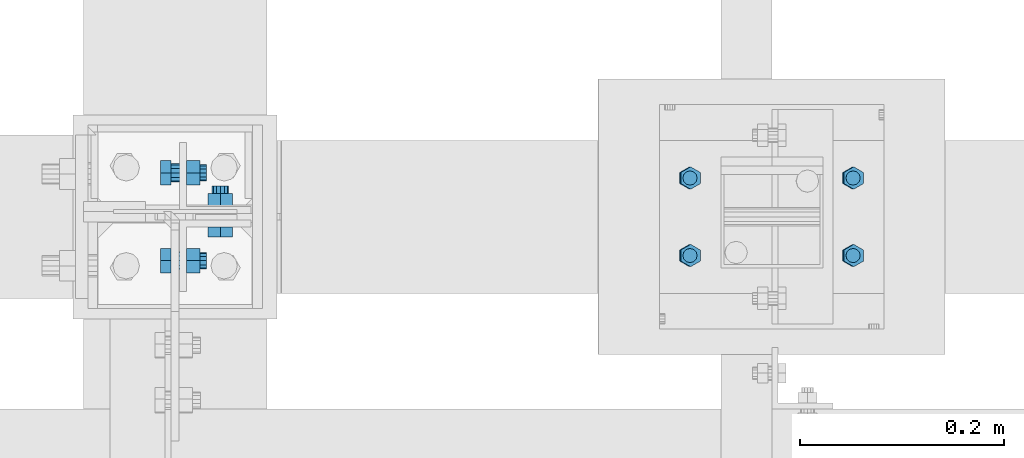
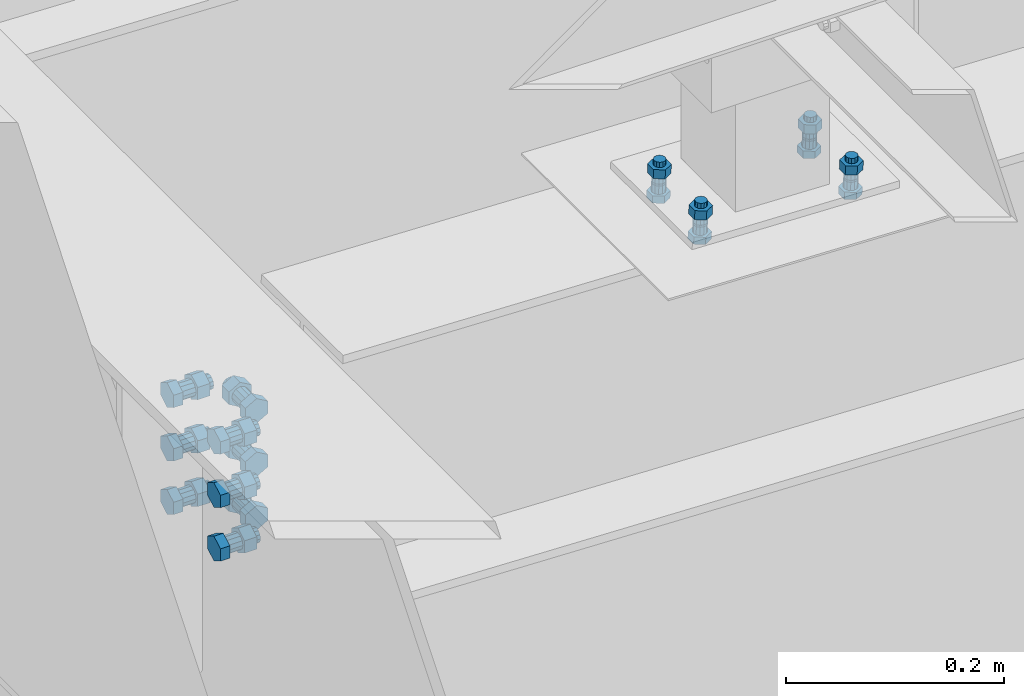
# One storey, part 210 of 3134: 5 mechanical fasteners, 4 elements without a shape of their own.
"""IFC2X3 building model written with IfcOpenShell, lengths in millimetres."""

from ifc_helpers import new_model, si_unit, frame, origin_with_axes, place, context, subcontext, project, spatial, faceted_brep, source, transform, mapped, material, type_object, element, aggregate, save


model = new_model("IFC2X3")

# Units and contexts
model_context = context("Model", 3, precision=1e-05, world=origin_with_axes())
body_context = subcontext(model_context, "Body", "Model", "MODEL_VIEW")
ifc_project = project(units=[si_unit("LENGTHUNIT", "METRE", prefix="MILLI"), si_unit("AREAUNIT", "SQUARE_METRE"), si_unit("VOLUMEUNIT", "CUBIC_METRE"), si_unit("MASSUNIT", "GRAM", prefix="KILO"), si_unit("TIMEUNIT", "SECOND"), si_unit("PLANEANGLEUNIT", "RADIAN"), si_unit("SOLIDANGLEUNIT", "STERADIAN"), si_unit("THERMODYNAMICTEMPERATUREUNIT", "DEGREE_CELSIUS"), si_unit("LUMINOUSINTENSITYUNIT", "LUMEN")], contexts=[model_context])

# Site, building, storey
site_placement = place(None, origin_with_axes())
site = spatial("IfcSite", under=ifc_project, at=site_placement, CompositionType="ELEMENT")
building_placement = place(site_placement, origin_with_axes())
building = spatial("IfcBuilding", under=site, at=building_placement, Name="Undefined", CompositionType="ELEMENT")
storey_placement = place(building_placement, origin_with_axes())
storey = spatial("IfcBuildingStorey", under=building, at=storey_placement, Name="Undefined", CompositionType="ELEMENT", Elevation=0.0)

# Assembly, mechanical fastener
assembly_1_placement = place(storey_placement, origin_with_axes())
assembly_1 = element("IfcElementAssembly", 1, at=assembly_1_placement, inside=storey, AssemblyPlace="NOTDEFINED", PredefinedType="RIGID_FRAME")
ifc_material = material(Name="8.8")
mechanical_fastener_type = type_object("IfcMechanicalFastenerType", Name="Bolt assembly")
shared_shape_1 = source(origin_with_axes(), body_context, "Body", "Brep", [
    faceted_brep([(13.856406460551, -18.5936482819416, 0.0), (6.92820323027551, -18.5936482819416, 12.0), (-6.92820323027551, -18.5936482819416, 12.0), (-13.856406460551, -18.5936482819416, 1.69692038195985e-15), (-6.92820323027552, -18.5936482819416, -12.0), (6.9282032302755, -18.5936482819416, -12.0), (6.9282032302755, -8.59364828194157, -12.0), (-6.92820323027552, -8.59364828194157, -12.0), (-13.856406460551, -8.59364828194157, 1.69692038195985e-15), (-6.92820323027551, -8.59364828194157, 12.0), (6.92820323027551, -8.59364828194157, 12.0), (13.856406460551, -8.59364828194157, 0.0), (8.0, -8.59364828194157, 0.0), (6.92820323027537, -8.59364828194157, 4.00000000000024), (3.99999999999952, -8.59364828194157, 6.92820323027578), (-8.29068785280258e-13, -8.59364828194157, 8.0), (-4.00000000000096, -8.59364828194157, 6.92820323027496), (-6.9282032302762, -8.59364828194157, 3.99999999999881), (-8.0, -8.59364828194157, -1.65813757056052e-12), (-6.92820323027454, -8.59364828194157, -4.00000000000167), (-3.99999999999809, -8.59364828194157, -6.92820323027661), (2.47832457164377e-12, -8.59364828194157, -8.0), (4.00000000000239, -8.59364828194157, -6.92820323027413), (6.92820323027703, -8.59364828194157, -3.99999999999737), (6.92820323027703, 26.4063517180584, -3.99999999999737), (4.00000000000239, 26.4063517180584, -6.92820323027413), (2.47832457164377e-12, 26.4063517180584, -8.0), (-3.99999999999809, 26.4063517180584, -6.92820323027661), (-6.92820323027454, 26.4063517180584, -4.00000000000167), (-8.0, 26.4063517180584, -1.65813757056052e-12), (-6.9282032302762, 26.4063517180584, 3.99999999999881), (-4.00000000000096, 26.4063517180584, 6.92820323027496), (-8.29068785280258e-13, 26.4063517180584, 8.0), (3.99999999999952, 26.4063517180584, 6.92820323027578), (6.92820323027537, 26.4063517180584, 4.00000000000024), (8.0, 26.4063517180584, 0.0), (13.856406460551, 7.0, 0.0), (6.92820323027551, 7.0, 12.0), (-6.92820323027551, 7.0, 12.0), (-13.856406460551, 7.0, 1.69692038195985e-15), (-6.92820323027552, 7.0, -12.0), (6.9282032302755, 7.0, -12.0), (6.9282032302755, 20.0, -12.0), (-6.92820323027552, 20.0, -12.0), (-13.856406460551, 20.0, 1.69692038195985e-15), (-6.92820323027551, 20.0, 12.0), (6.92820323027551, 20.0, 12.0), (13.856406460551, 20.0, 0.0)], [[[0, 1, 2, 3, 4, 5]], [[6, 7, 8, 9, 10, 11]], [[0, 11, 10, 1]], [[1, 10, 9, 2]], [[2, 9, 8, 3]], [[3, 8, 7, 4]], [[4, 7, 6, 5]], [[5, 6, 11, 0]], [[12, 13, 14, 15, 16, 17, 18, 19, 20, 21, 22, 23]], [[24, 25, 26, 27, 28, 29, 30, 31, 32, 33, 34, 35]], [[12, 35, 34, 13]], [[13, 34, 33, 14]], [[14, 33, 32, 15]], [[15, 32, 31, 16]], [[16, 31, 30, 17]], [[17, 30, 29, 18]], [[18, 29, 28, 19]], [[19, 28, 27, 20]], [[20, 27, 26, 21]], [[21, 26, 25, 22]], [[22, 25, 24, 23]], [[23, 24, 35, 12]], [[36, 37, 38, 39, 40, 41]], [[42, 43, 44, 45, 46, 47]], [[36, 47, 46, 37]], [[37, 46, 45, 38]], [[38, 45, 44, 39]], [[39, 44, 43, 40]], [[40, 43, 42, 41]], [[41, 42, 47, 36]]]),
    faceted_brep([(9.0, -8.49364828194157, 0.0), (7.79422863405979, -8.49364828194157, 4.50000000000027), (4.49999999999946, -8.49364828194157, 7.79422863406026), (-9.3270238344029e-13, -8.49364828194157, 9.0), (-4.50000000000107, -8.49364828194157, 7.79422863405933), (-7.79422863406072, -8.49364828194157, 4.49999999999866), (-9.0, -8.49364828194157, -1.86540476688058e-12), (-7.79422863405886, -8.49364828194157, -4.50000000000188), (-4.49999999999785, -8.49364828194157, -7.79422863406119), (2.78811514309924e-12, -8.49364828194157, -9.0), (4.50000000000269, -8.49364828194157, -7.7942286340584), (7.79422863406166, -8.49364828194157, -4.49999999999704), (7.79422863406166, 0.10635209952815, -4.49999999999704), (4.50000000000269, 0.10635209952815, -7.7942286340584), (2.78811514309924e-12, 0.10635209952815, -9.0), (-4.49999999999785, 0.10635209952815, -7.79422863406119), (-7.79422863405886, 0.10635209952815, -4.50000000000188), (-9.0, 0.10635209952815, -1.86540476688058e-12), (-7.79422863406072, 0.10635209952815, 4.49999999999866), (-4.50000000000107, 0.10635209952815, 7.79422863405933), (-9.3270238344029e-13, 0.10635209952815, 9.0), (4.49999999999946, 0.10635209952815, 7.79422863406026), (7.79422863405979, 0.10635209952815, 4.50000000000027), (9.0, 0.10635209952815, 0.0), (9.0, -0.1, 0.0), (7.79422863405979, -0.1, 4.50000000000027), (4.49999999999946, -0.1, 7.79422863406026), (-9.3270238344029e-13, -0.1, 9.0), (-4.50000000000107, -0.1, 7.79422863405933), (-7.79422863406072, -0.1, 4.49999999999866), (-9.0, -0.1, -1.86540476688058e-12), (-7.79422863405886, -0.1, -4.50000000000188), (-4.49999999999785, -0.1, -7.79422863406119), (2.78811514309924e-12, -0.1, -9.0), (4.50000000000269, -0.1, -7.7942286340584), (7.79422863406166, -0.1, -4.49999999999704), (7.79422863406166, 7.0, -4.49999999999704), (4.50000000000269, 7.0, -7.7942286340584), (2.78811514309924e-12, 7.0, -9.0), (-4.49999999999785, 7.0, -7.79422863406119), (-7.79422863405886, 7.0, -4.50000000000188), (-9.0, 7.0, -1.86540476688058e-12), (-7.79422863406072, 7.0, 4.49999999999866), (-4.50000000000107, 7.0, 7.79422863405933), (-9.3270238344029e-13, 7.0, 9.0), (4.49999999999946, 7.0, 7.79422863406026), (7.79422863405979, 7.0, 4.50000000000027), (9.0, 7.0, 0.0)], [[[0, 1, 2, 3, 4, 5, 6, 7, 8, 9, 10, 11]], [[12, 13, 14, 15, 16, 17, 18, 19, 20, 21, 22, 23]], [[0, 23, 22, 1]], [[1, 22, 21, 2]], [[2, 21, 20, 3]], [[3, 20, 19, 4]], [[4, 19, 18, 5]], [[5, 18, 17, 6]], [[6, 17, 16, 7]], [[7, 16, 15, 8]], [[8, 15, 14, 9]], [[9, 14, 13, 10]], [[10, 13, 12, 11]], [[11, 12, 23, 0]], [[24, 25, 26, 27, 28, 29, 30, 31, 32, 33, 34, 35]], [[36, 37, 38, 39, 40, 41, 42, 43, 44, 45, 46, 47]], [[24, 47, 46, 25]], [[25, 46, 45, 26]], [[26, 45, 44, 27]], [[27, 44, 43, 28]], [[28, 43, 42, 29]], [[29, 42, 41, 30]], [[30, 41, 40, 31]], [[31, 40, 39, 32]], [[32, 39, 38, 33]], [[33, 38, 37, 34]], [[34, 37, 36, 35]], [[35, 36, 47, 24]]]),
])
mechanical_fastener_1_placement = place(assembly_1_placement, frame((4.29364809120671, 48568.04, 3841.86727512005), z_axis=(0.0, 1.0, 0.0), x_axis=(0.0, 0.0, 1.0)))
mechanical_fastener_1 = element("IfcMechanicalFastener", 2, at=mechanical_fastener_1_placement, type_object=mechanical_fastener_type, material=ifc_material, Name="Bolt assembly", NominalDiameter=16.0, NominalLength=35.0, context=body_context, shape_type="MappedRepresentation", body=[
    mapped(shared_shape_1, transform((0.0, 0.0, 0.0))),
    mapped(shared_shape_1, transform((59.9999999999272, 0.0, 5.40239852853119e-10))),
    mapped(shared_shape_1, transform((120.0, 0.0, 0.0))),
])
aggregate(assembly_1, [mechanical_fastener_1])

# Assembly, mechanical fasteners
assembly_2_placement = place(storey_placement, origin_with_axes())
assembly_2 = element("IfcElementAssembly", 3, at=assembly_2_placement, inside=storey, AssemblyPlace="NOTDEFINED", PredefinedType="RIGID_FRAME")
mechanical_fastener_2_placement = place(assembly_2_placement, frame((4.29364809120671, 48481.96, 3841.86727512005), z_axis=(0.0, 1.0, 0.0), x_axis=(0.0, 0.0, 1.0)))
mechanical_fastener_2 = element("IfcMechanicalFastener", 4, at=mechanical_fastener_2_placement, type_object=mechanical_fastener_type, material=ifc_material, Name="Bolt assembly", NominalDiameter=16.0, NominalLength=35.0, context=body_context, shape_type="MappedRepresentation", body=[
    mapped(shared_shape_1, transform((0.0, 0.0, 0.0))),
    mapped(shared_shape_1, transform((59.9999999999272, 0.0, 5.40239852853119e-10))),
    mapped(shared_shape_1, transform((120.0, 0.0, 0.0))),
])
shared_shape_2 = source(origin_with_axes(), body_context, "Body", "Brep", [
    faceted_brep([(13.856406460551, -20.0400000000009, 0.0), (6.92820323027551, -20.0400000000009, 12.0), (-6.92820323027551, -20.0400000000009, 12.0), (-13.856406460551, -20.0400000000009, 1.69692038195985e-15), (-6.92820323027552, -20.0400000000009, -12.0), (6.9282032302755, -20.0400000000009, -12.0), (6.9282032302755, -10.0400000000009, -12.0), (-6.92820323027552, -10.0400000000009, -12.0), (-13.856406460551, -10.0400000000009, 1.69692038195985e-15), (-6.92820323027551, -10.0400000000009, 12.0), (6.92820323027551, -10.0400000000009, 12.0), (13.856406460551, -10.0400000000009, 0.0), (8.0, -10.0400000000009, 0.0), (6.92820323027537, -10.0400000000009, 4.00000000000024), (3.99999999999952, -10.0400000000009, 6.92820323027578), (-8.29068785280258e-13, -10.0400000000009, 8.0), (-4.00000000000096, -10.0400000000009, 6.92820323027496), (-6.9282032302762, -10.0400000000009, 3.99999999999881), (-8.0, -10.0400000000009, -1.65813757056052e-12), (-6.92820323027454, -10.0400000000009, -4.00000000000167), (-3.99999999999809, -10.0400000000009, -6.92820323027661), (2.47832457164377e-12, -10.0400000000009, -8.0), (4.00000000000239, -10.0400000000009, -6.92820323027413), (6.92820323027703, -10.0400000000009, -3.99999999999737), (6.92820323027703, 29.9599999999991, -3.99999999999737), (4.00000000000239, 29.9599999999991, -6.92820323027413), (2.47832457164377e-12, 29.9599999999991, -8.0), (-3.99999999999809, 29.9599999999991, -6.92820323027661), (-6.92820323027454, 29.9599999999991, -4.00000000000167), (-8.0, 29.9599999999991, -1.65813757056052e-12), (-6.9282032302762, 29.9599999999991, 3.99999999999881), (-4.00000000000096, 29.9599999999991, 6.92820323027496), (-8.29068785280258e-13, 29.9599999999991, 8.0), (3.99999999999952, 29.9599999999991, 6.92820323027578), (6.92820323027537, 29.9599999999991, 4.00000000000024), (8.0, 29.9599999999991, 0.0), (13.856406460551, 10.0400000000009, 0.0), (6.92820323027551, 10.0400000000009, 12.0), (-6.92820323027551, 10.0400000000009, 12.0), (-13.856406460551, 10.0400000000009, 1.69692038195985e-15), (-6.92820323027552, 10.0400000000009, -12.0), (6.9282032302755, 10.0400000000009, -12.0), (6.9282032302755, 23.0400000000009, -12.0), (-6.92820323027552, 23.0400000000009, -12.0), (-13.856406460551, 23.0400000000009, 1.69692038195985e-15), (-6.92820323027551, 23.0400000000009, 12.0), (6.92820323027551, 23.0400000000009, 12.0), (13.856406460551, 23.0400000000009, 0.0)], [[[0, 1, 2, 3, 4, 5]], [[6, 7, 8, 9, 10, 11]], [[0, 11, 10, 1]], [[1, 10, 9, 2]], [[2, 9, 8, 3]], [[3, 8, 7, 4]], [[4, 7, 6, 5]], [[5, 6, 11, 0]], [[12, 13, 14, 15, 16, 17, 18, 19, 20, 21, 22, 23]], [[24, 25, 26, 27, 28, 29, 30, 31, 32, 33, 34, 35]], [[12, 35, 34, 13]], [[13, 34, 33, 14]], [[14, 33, 32, 15]], [[15, 32, 31, 16]], [[16, 31, 30, 17]], [[17, 30, 29, 18]], [[18, 29, 28, 19]], [[19, 28, 27, 20]], [[20, 27, 26, 21]], [[21, 26, 25, 22]], [[22, 25, 24, 23]], [[23, 24, 35, 12]], [[36, 37, 38, 39, 40, 41]], [[42, 43, 44, 45, 46, 47]], [[36, 47, 46, 37]], [[37, 46, 45, 38]], [[38, 45, 44, 39]], [[39, 44, 43, 40]], [[40, 43, 42, 41]], [[41, 42, 47, 36]]]),
    faceted_brep([(9.0, -3.04999995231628, 0.0), (7.79422863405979, -3.04999995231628, 4.50000000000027), (4.49999999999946, -3.04999995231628, 7.79422863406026), (-9.3270238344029e-13, -3.04999995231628, 9.0), (-4.50000000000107, -3.04999995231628, 7.79422863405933), (-7.79422863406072, -3.04999995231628, 4.49999999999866), (-9.0, -3.04999995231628, -1.86540476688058e-12), (-7.79422863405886, -3.04999995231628, -4.50000000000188), (-4.49999999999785, -3.04999995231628, -7.79422863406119), (2.78811514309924e-12, -3.04999995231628, -9.0), (4.50000000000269, -3.04999995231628, -7.7942286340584), (7.79422863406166, -3.04999995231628, -4.49999999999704), (7.79422863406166, 3.04999995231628, -4.49999999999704), (4.50000000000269, 3.04999995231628, -7.7942286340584), (2.78811514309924e-12, 3.04999995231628, -9.0), (-4.49999999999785, 3.04999995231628, -7.79422863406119), (-7.79422863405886, 3.04999995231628, -4.50000000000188), (-9.0, 3.04999995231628, -1.86540476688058e-12), (-7.79422863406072, 3.04999995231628, 4.49999999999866), (-4.50000000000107, 3.04999995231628, 7.79422863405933), (-9.3270238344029e-13, 3.04999995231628, 9.0), (4.49999999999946, 3.04999995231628, 7.79422863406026), (7.79422863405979, 3.04999995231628, 4.50000000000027), (9.0, 3.04999995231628, 0.0), (9.0, -9.94000000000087, 0.0), (7.79422863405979, -9.94000000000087, 4.50000000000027), (4.49999999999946, -9.94000000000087, 7.79422863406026), (-9.3270238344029e-13, -9.94000000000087, 9.0), (-4.50000000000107, -9.94000000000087, 7.79422863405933), (-7.79422863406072, -9.94000000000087, 4.49999999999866), (-9.0, -9.94000000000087, -1.86540476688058e-12), (-7.79422863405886, -9.94000000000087, -4.50000000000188), (-4.49999999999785, -9.94000000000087, -7.79422863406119), (2.78811514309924e-12, -9.94000000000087, -9.0), (4.50000000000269, -9.94000000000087, -7.7942286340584), (7.79422863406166, -9.94000000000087, -4.49999999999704), (7.79422863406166, -2.94000000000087, -4.49999999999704), (4.50000000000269, -2.94000000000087, -7.7942286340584), (2.78811514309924e-12, -2.94000000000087, -9.0), (-4.49999999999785, -2.94000000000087, -7.79422863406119), (-7.79422863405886, -2.94000000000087, -4.50000000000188), (-9.0, -2.94000000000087, -1.86540476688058e-12), (-7.79422863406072, -2.94000000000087, 4.49999999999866), (-4.50000000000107, -2.94000000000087, 7.79422863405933), (-9.3270238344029e-13, -2.94000000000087, 9.0), (4.49999999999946, -2.94000000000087, 7.79422863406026), (7.79422863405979, -2.94000000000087, 4.50000000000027), (9.0, -2.94000000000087, 0.0), (9.0, 2.94000000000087, 0.0), (7.79422863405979, 2.94000000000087, 4.50000000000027), (4.49999999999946, 2.94000000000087, 7.79422863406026), (-9.3270238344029e-13, 2.94000000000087, 9.0), (-4.50000000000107, 2.94000000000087, 7.79422863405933), (-7.79422863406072, 2.94000000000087, 4.49999999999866), (-9.0, 2.94000000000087, -1.86540476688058e-12), (-7.79422863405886, 2.94000000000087, -4.50000000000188), (-4.49999999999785, 2.94000000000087, -7.79422863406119), (2.78811514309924e-12, 2.94000000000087, -9.0), (4.50000000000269, 2.94000000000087, -7.7942286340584), (7.79422863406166, 2.94000000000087, -4.49999999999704), (7.79422863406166, 10.0400000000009, -4.49999999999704), (4.50000000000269, 10.0400000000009, -7.7942286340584), (2.78811514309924e-12, 10.0400000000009, -9.0), (-4.49999999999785, 10.0400000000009, -7.79422863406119), (-7.79422863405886, 10.0400000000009, -4.50000000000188), (-9.0, 10.0400000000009, -1.86540476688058e-12), (-7.79422863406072, 10.0400000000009, 4.49999999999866), (-4.50000000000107, 10.0400000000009, 7.79422863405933), (-9.3270238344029e-13, 10.0400000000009, 9.0), (4.49999999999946, 10.0400000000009, 7.79422863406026), (7.79422863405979, 10.0400000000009, 4.50000000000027), (9.0, 10.0400000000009, 0.0)], [[[0, 1, 2, 3, 4, 5, 6, 7, 8, 9, 10, 11]], [[12, 13, 14, 15, 16, 17, 18, 19, 20, 21, 22, 23]], [[0, 23, 22, 1]], [[1, 22, 21, 2]], [[2, 21, 20, 3]], [[3, 20, 19, 4]], [[4, 19, 18, 5]], [[5, 18, 17, 6]], [[6, 17, 16, 7]], [[7, 16, 15, 8]], [[8, 15, 14, 9]], [[9, 14, 13, 10]], [[10, 13, 12, 11]], [[11, 12, 23, 0]], [[24, 25, 26, 27, 28, 29, 30, 31, 32, 33, 34, 35]], [[36, 37, 38, 39, 40, 41, 42, 43, 44, 45, 46, 47]], [[24, 47, 46, 25]], [[25, 46, 45, 26]], [[26, 45, 44, 27]], [[27, 44, 43, 28]], [[28, 43, 42, 29]], [[29, 42, 41, 30]], [[30, 41, 40, 31]], [[31, 40, 39, 32]], [[32, 39, 38, 33]], [[33, 38, 37, 34]], [[34, 37, 36, 35]], [[35, 36, 47, 24]], [[48, 49, 50, 51, 52, 53, 54, 55, 56, 57, 58, 59]], [[60, 61, 62, 63, 64, 65, 66, 67, 68, 69, 70, 71]], [[48, 71, 70, 49]], [[49, 70, 69, 50]], [[50, 69, 68, 51]], [[51, 68, 67, 52]], [[52, 67, 66, 53]], [[53, 66, 65, 54]], [[54, 65, 64, 55]], [[55, 64, 63, 56]], [[56, 63, 62, 57]], [[57, 62, 61, 58]], [[58, 61, 60, 59]], [[59, 60, 71, 48]]]),
])
mechanical_fastener_3_placement = place(assembly_2_placement, frame((44.2936480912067, 48525.0, 3841.86727512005), z_axis=(-1.0, 0.0, 0.0), x_axis=(0.0, 0.0, 1.0)))
mechanical_fastener_3 = element("IfcMechanicalFastener", 5, at=mechanical_fastener_3_placement, type_object=mechanical_fastener_type, material=ifc_material, Name="Bolt assembly", NominalDiameter=16.0, NominalLength=40.0, context=body_context, shape_type="MappedRepresentation", body=[
    mapped(shared_shape_2, transform((0.0, 0.0, 0.0))),
    mapped(shared_shape_2, transform((59.9999999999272, 0.0, 5.40239852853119e-10))),
    mapped(shared_shape_2, transform((120.0, 0.0, 0.0))),
])
aggregate(assembly_2, [mechanical_fastener_2, mechanical_fastener_3])

# Assembly, mechanical fastener
assembly_3_placement = place(storey_placement, origin_with_axes())
assembly_3 = element("IfcElementAssembly", 6, at=assembly_3_placement, inside=storey, AssemblyPlace="NOTDEFINED", PredefinedType="RIGID_FRAME")
shared_shape_3 = source(origin_with_axes(), body_context, "Body", "Brep", [
    faceted_brep([(7.0, 13.0000253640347, 0.0), (6.06217782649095, 13.0000253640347, 3.50000000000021), (3.49999999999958, 13.0000253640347, 6.06217782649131), (-7.25435187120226e-13, 13.0000253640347, 7.0), (-3.50000000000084, 13.0000253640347, 6.06217782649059), (-6.06217782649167, 13.0000253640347, 3.49999999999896), (-7.0, 13.0000253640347, -1.45087037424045e-12), (-6.06217782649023, 13.0000253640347, -3.50000000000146), (-3.49999999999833, 13.0000253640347, -6.06217782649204), (2.1685340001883e-12, 13.0000253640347, -7.0), (3.50000000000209, 13.0000253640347, -6.06217782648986), (6.0621778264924, 13.0000253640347, -3.4999999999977), (6.0621778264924, 15.0999999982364, -3.4999999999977), (3.50000000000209, 15.0999999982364, -6.06217782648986), (2.1685340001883e-12, 15.0999999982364, -7.0), (-3.49999999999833, 15.0999999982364, -6.06217782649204), (-6.06217782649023, 15.0999999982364, -3.50000000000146), (-7.0, 15.0999999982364, -1.45087037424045e-12), (-6.06217782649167, 15.0999999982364, 3.49999999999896), (-3.50000000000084, 15.0999999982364, 6.06217782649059), (-7.25435187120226e-13, 15.0999999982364, 7.0), (3.49999999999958, 15.0999999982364, 6.06217782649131), (6.06217782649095, 15.0999999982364, 3.50000000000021), (7.0, 15.0999999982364, 0.0)], [[[0, 1, 2, 3, 4, 5, 6, 7, 8, 9, 10, 11]], [[12, 13, 14, 15, 16, 17, 18, 19, 20, 21, 22, 23]], [[0, 23, 22, 1]], [[1, 22, 21, 2]], [[2, 21, 20, 3]], [[3, 20, 19, 4]], [[4, 19, 18, 5]], [[5, 18, 17, 6]], [[6, 17, 16, 7]], [[7, 16, 15, 8]], [[8, 15, 14, 9]], [[9, 14, 13, 10]], [[10, 13, 12, 11]], [[11, 12, 23, 0]]]),
])
mechanical_fastener_4_placement = place(assembly_3_placement, frame((584.193186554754, 48562.9999999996, 4006.54000668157), z_axis=(-0.999387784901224, 0.0, 0.0349865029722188), x_axis=(0.0, -1.0, 0.0)))
mechanical_fastener_4 = element("IfcMechanicalFastener", 7, at=mechanical_fastener_4_placement, type_object=mechanical_fastener_type, material=ifc_material, Name="Bolt assembly", NominalDiameter=12.0, NominalLength=2.0, context=body_context, shape_type="MappedRepresentation", body=[
    mapped(shared_shape_3, transform((0.0, -5.32963895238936e-10, -79.9999999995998))),
    mapped(shared_shape_3, transform((76.0, -5.32963895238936e-10, -79.9999999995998))),
    mapped(shared_shape_3, transform((0.0, 5.3114490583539e-10, 79.9999999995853))),
    mapped(shared_shape_3, transform((76.0, 5.3114490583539e-10, 79.9999999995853))),
])
aggregate(assembly_3, [mechanical_fastener_4])

assembly_4_placement = place(storey_placement, origin_with_axes())
assembly_4 = element("IfcElementAssembly", 8, at=assembly_4_placement, inside=storey, AssemblyPlace="NOTDEFINED", PredefinedType="RIGID_FRAME")
shared_shape_4 = source(origin_with_axes(), body_context, "Body", "Brep", [
    faceted_brep([(10.9696551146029, -4.19442685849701, 0.0), (5.48482755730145, -4.19442685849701, 9.5), (-5.48482755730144, -4.19442685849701, 9.5), (-10.9696551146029, -4.19442685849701, 1.34339530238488e-15), (-5.48482755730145, -4.19442685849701, -9.5), (5.48482755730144, -4.19442685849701, -9.50000000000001), (5.48482755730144, 3.80557314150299, -9.50000000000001), (-5.48482755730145, 3.80557314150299, -9.5), (-10.9696551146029, 3.80557314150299, 1.34339530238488e-15), (-5.48482755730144, 3.80557314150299, 9.5), (5.48482755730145, 3.80557314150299, 9.5), (10.9696551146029, 3.80557314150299, 0.0), (6.0, 3.80557314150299, 0.0), (5.19615242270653, 3.80557314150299, 3.00000000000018), (2.99999999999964, 3.80557314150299, 5.19615242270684), (-6.21801588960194e-13, 3.80557314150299, 6.0), (-3.00000000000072, 3.80557314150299, 5.19615242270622), (-5.19615242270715, 3.80557314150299, 2.9999999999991), (-6.0, 3.80557314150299, -1.24360317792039e-12), (-5.19615242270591, 3.80557314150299, -3.00000000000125), (-2.99999999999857, 3.80557314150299, -5.19615242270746), (1.85874342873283e-12, 3.80557314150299, -6.0), (3.00000000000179, 3.80557314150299, -5.1961524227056), (5.19615242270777, 3.80557314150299, -2.99999999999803), (5.19615242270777, 38.805573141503, -2.99999999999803), (3.00000000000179, 38.805573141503, -5.1961524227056), (1.85874342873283e-12, 38.805573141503, -6.0), (-2.99999999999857, 38.805573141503, -5.19615242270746), (-5.19615242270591, 38.805573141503, -3.00000000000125), (-6.0, 38.805573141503, -1.24360317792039e-12), (-5.19615242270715, 38.805573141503, 2.9999999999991), (-3.00000000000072, 38.805573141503, 5.19615242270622), (-6.21801588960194e-13, 38.805573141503, 6.0), (2.99999999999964, 38.805573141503, 5.19615242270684), (5.19615242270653, 38.805573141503, 3.00000000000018), (6.0, 38.805573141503, 0.0), (10.9696551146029, 23.0139082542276, 0.0), (5.48482755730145, 23.0139082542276, 9.5), (-5.48482755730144, 23.0139082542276, 9.5), (-10.9696551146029, 23.0139082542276, 1.34339530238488e-15), (-5.48482755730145, 23.0139082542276, -9.5), (5.48482755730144, 23.0139082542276, -9.50000000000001), (5.48482755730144, 33.0139082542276, -9.50000000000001), (-5.48482755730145, 33.0139082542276, -9.5), (-10.9696551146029, 33.0139082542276, 1.34339530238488e-15), (-5.48482755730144, 33.0139082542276, 9.5), (5.48482755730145, 33.0139082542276, 9.5), (10.9696551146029, 33.0139082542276, 0.0)], [[[0, 1, 2, 3, 4, 5]], [[6, 7, 8, 9, 10, 11]], [[0, 11, 10, 1]], [[1, 10, 9, 2]], [[2, 9, 8, 3]], [[3, 8, 7, 4]], [[4, 7, 6, 5]], [[5, 6, 11, 0]], [[12, 13, 14, 15, 16, 17, 18, 19, 20, 21, 22, 23]], [[24, 25, 26, 27, 28, 29, 30, 31, 32, 33, 34, 35]], [[12, 35, 34, 13]], [[13, 34, 33, 14]], [[14, 33, 32, 15]], [[15, 32, 31, 16]], [[16, 31, 30, 17]], [[17, 30, 29, 18]], [[18, 29, 28, 19]], [[19, 28, 27, 20]], [[20, 27, 26, 21]], [[21, 26, 25, 22]], [[22, 25, 24, 23]], [[23, 24, 35, 12]], [[36, 37, 38, 39, 40, 41]], [[42, 43, 44, 45, 46, 47]], [[36, 47, 46, 37]], [[37, 46, 45, 38]], [[38, 45, 44, 39]], [[39, 44, 43, 40]], [[40, 43, 42, 41]], [[41, 42, 47, 36]]]),
    faceted_brep([(7.0, 3.90557314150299, 0.0), (6.06217782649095, 3.90557314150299, 3.50000000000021), (3.49999999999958, 3.90557314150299, 6.06217782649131), (-7.25435187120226e-13, 3.90557314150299, 7.0), (-3.50000000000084, 3.90557314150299, 6.06217782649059), (-6.06217782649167, 3.90557314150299, 3.49999999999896), (-7.0, 3.90557314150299, -1.45087037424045e-12), (-6.06217782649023, 3.90557314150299, -3.50000000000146), (-3.49999999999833, 3.90557314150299, -6.06217782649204), (2.1685340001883e-12, 3.90557314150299, -7.0), (3.50000000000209, 3.90557314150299, -6.06217782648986), (6.0621778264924, 3.90557314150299, -3.4999999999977), (6.0621778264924, 13.1055729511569, -3.4999999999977), (3.50000000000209, 13.1055729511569, -6.06217782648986), (2.1685340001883e-12, 13.1055729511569, -7.0), (-3.49999999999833, 13.1055729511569, -6.06217782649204), (-6.06217782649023, 13.1055729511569, -3.50000000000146), (-7.0, 13.1055729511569, -1.45087037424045e-12), (-6.06217782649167, 13.1055729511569, 3.49999999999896), (-3.50000000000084, 13.1055729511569, 6.06217782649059), (-7.25435187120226e-13, 13.1055729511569, 7.0), (3.49999999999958, 13.1055729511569, 6.06217782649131), (6.06217782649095, 13.1055729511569, 3.50000000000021), (7.0, 13.1055729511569, 0.0), (7.0, 14.9139082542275, 0.0), (6.06217782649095, 14.9139082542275, 3.50000000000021), (3.49999999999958, 14.9139082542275, 6.06217782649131), (-7.25435187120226e-13, 14.9139082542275, 7.0), (-3.50000000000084, 14.9139082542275, 6.06217782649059), (-6.06217782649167, 14.9139082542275, 3.49999999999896), (-7.0, 14.9139082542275, -1.45087037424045e-12), (-6.06217782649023, 14.9139082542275, -3.50000000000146), (-3.49999999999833, 14.9139082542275, -6.06217782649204), (2.1685340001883e-12, 14.9139082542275, -7.0), (3.50000000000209, 14.9139082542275, -6.06217782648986), (6.0621778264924, 14.9139082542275, -3.4999999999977), (6.0621778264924, 23.0139082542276, -3.4999999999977), (3.50000000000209, 23.0139082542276, -6.06217782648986), (2.1685340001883e-12, 23.0139082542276, -7.0), (-3.49999999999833, 23.0139082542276, -6.06217782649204), (-6.06217782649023, 23.0139082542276, -3.50000000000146), (-7.0, 23.0139082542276, -1.45087037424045e-12), (-6.06217782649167, 23.0139082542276, 3.49999999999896), (-3.50000000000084, 23.0139082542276, 6.06217782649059), (-7.25435187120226e-13, 23.0139082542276, 7.0), (3.49999999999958, 23.0139082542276, 6.06217782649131), (6.06217782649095, 23.0139082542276, 3.50000000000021), (7.0, 23.0139082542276, 0.0)], [[[0, 1, 2, 3, 4, 5, 6, 7, 8, 9, 10, 11]], [[12, 13, 14, 15, 16, 17, 18, 19, 20, 21, 22, 23]], [[0, 23, 22, 1]], [[1, 22, 21, 2]], [[2, 21, 20, 3]], [[3, 20, 19, 4]], [[4, 19, 18, 5]], [[5, 18, 17, 6]], [[6, 17, 16, 7]], [[7, 16, 15, 8]], [[8, 15, 14, 9]], [[9, 14, 13, 10]], [[10, 13, 12, 11]], [[11, 12, 23, 0]], [[24, 25, 26, 27, 28, 29, 30, 31, 32, 33, 34, 35]], [[36, 37, 38, 39, 40, 41, 42, 43, 44, 45, 46, 47]], [[24, 47, 46, 25]], [[25, 46, 45, 26]], [[26, 45, 44, 27]], [[27, 44, 43, 28]], [[28, 43, 42, 29]], [[29, 42, 41, 30]], [[30, 41, 40, 31]], [[31, 40, 39, 32]], [[32, 39, 38, 33]], [[33, 38, 37, 34]], [[34, 37, 36, 35]], [[35, 36, 47, 24]]]),
])
mechanical_fastener_5_placement = place(assembly_4_placement, frame((584.193186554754, 48562.9999999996, 4006.54000668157), z_axis=(-0.999387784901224, 0.0, 0.0349865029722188), x_axis=(0.0, -1.0, 0.0)))
mechanical_fastener_5 = element("IfcMechanicalFastener", 9, at=mechanical_fastener_5_placement, type_object=mechanical_fastener_type, material=ifc_material, Name="Bolt assembly", NominalDiameter=12.0, NominalLength=35.0, context=body_context, shape_type="MappedRepresentation", body=[
    mapped(shared_shape_4, transform((0.0, -5.32963895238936e-10, -79.9999999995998))),
    mapped(shared_shape_4, transform((76.0, -5.32963895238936e-10, -79.9999999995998))),
    mapped(shared_shape_4, transform((0.0, 5.3114490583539e-10, 79.9999999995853))),
    mapped(shared_shape_4, transform((76.0, 5.3114490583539e-10, 79.9999999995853))),
])
aggregate(assembly_4, [mechanical_fastener_5])

save(model, "model.ifc")
